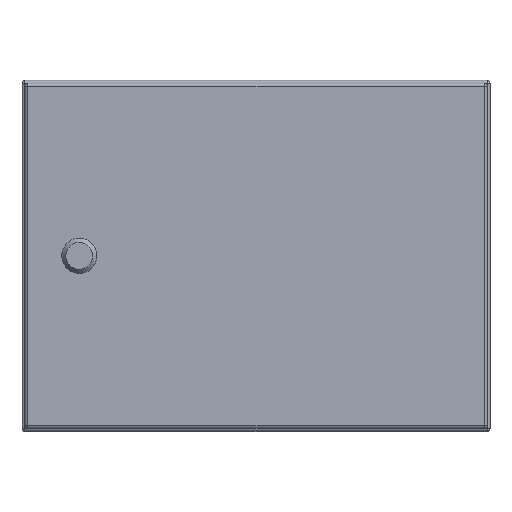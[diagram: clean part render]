
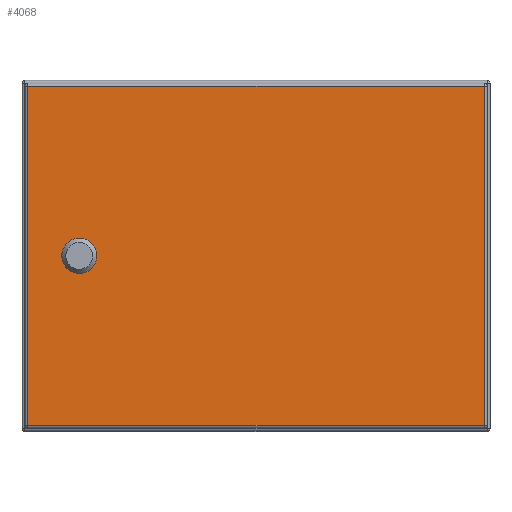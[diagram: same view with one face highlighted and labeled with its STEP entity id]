
A CAD part, top view. The second image highlights one B-rep face of the part: STEP entity #4068.
In plain terms, the highlighted planar face has unit normal (0, 0, 1) as drawn and (0, 0, -1) by its records, which use the part's own axes.
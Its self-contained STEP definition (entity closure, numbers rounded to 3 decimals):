
#334 = ORIENTED_EDGE ( 'NONE', *, *, #7554, .F. ) ;
#363 = LINE ( 'NONE', #473, #6887 ) ;
#412 = DIRECTION ( 'NONE',  ( 0., 0., -1. ) ) ;
#452 = DIRECTION ( 'NONE',  ( -1., 0., 0. ) ) ;
#473 = CARTESIAN_POINT ( 'NONE',  ( -197.5, -145., 0. ) ) ;
#721 = CARTESIAN_POINT ( 'NONE',  ( 156.056, 10.05, 0. ) ) ;
#763 = DIRECTION ( 'NONE',  ( 0., 1., 0. ) ) ;
#764 = EDGE_CURVE ( 'NONE', #1665, #6021, #3766, .T. ) ;
#805 = ORIENTED_EDGE ( 'NONE', *, *, #6939, .F. ) ;
#832 = DIRECTION ( 'NONE',  ( 1., 0., 0. ) ) ;
#878 = EDGE_CURVE ( 'NONE', #4718, #4030, #5985, .T. ) ;
#911 = VERTEX_POINT ( 'NONE', #6864 ) ;
#922 = LINE ( 'NONE', #4445, #3771 ) ;
#941 = CARTESIAN_POINT ( 'NONE',  ( 161.05, 5.056, 0. ) ) ;
#995 = FACE_OUTER_BOUND ( 'NONE', #6973, .T. ) ;
#1033 = EDGE_CURVE ( 'NONE', #6804, #5323, #4732, .T. ) ;
#1053 = ORIENTED_EDGE ( 'NONE', *, *, #1273, .T. ) ;
#1058 = CARTESIAN_POINT ( 'NONE',  ( 140.95, 5.056, 0. ) ) ;
#1273 = EDGE_CURVE ( 'NONE', #5323, #7262, #6478, .T. ) ;
#1340 = EDGE_CURVE ( 'NONE', #3063, #5590, #5993, .T. ) ;
#1494 = CARTESIAN_POINT ( 'NONE',  ( 140.95, -5.056, 0. ) ) ;
#1541 = CARTESIAN_POINT ( 'NONE',  ( 161.05, -5.056, 0. ) ) ;
#1621 = EDGE_CURVE ( 'NONE', #4587, #5381, #4733, .T. ) ;
#1639 = ORIENTED_EDGE ( 'NONE', *, *, #2414, .T. ) ;
#1665 = VERTEX_POINT ( 'NONE', #6316 ) ;
#1761 = CARTESIAN_POINT ( 'NONE',  ( 151., 0., 0. ) ) ;
#1860 = DIRECTION ( 'NONE',  ( 1., 0., 0. ) ) ;
#1916 = LINE ( 'NONE', #4251, #6406 ) ;
#1933 = LINE ( 'NONE', #2546, #2360 ) ;
#1937 = AXIS2_PLACEMENT_3D ( 'NONE', #3010, #5855, #7162 ) ;
#2194 = DIRECTION ( 'NONE',  ( 0., -1., 0. ) ) ;
#2243 = ORIENTED_EDGE ( 'NONE', *, *, #7213, .F. ) ;
#2360 = VECTOR ( 'NONE', #3814, 1000. ) ;
#2414 = EDGE_CURVE ( 'NONE', #7262, #911, #922, .T. ) ;
#2546 = CARTESIAN_POINT ( 'NONE',  ( 156.056, -10.05, 0. ) ) ;
#2625 = EDGE_LOOP ( 'NONE', ( #2984, #334, #6162, #805, #3393, #7419, #2654, #2243 ) ) ;
#2638 = CARTESIAN_POINT ( 'NONE',  ( 195., 145., 0. ) ) ;
#2654 = ORIENTED_EDGE ( 'NONE', *, *, #878, .F. ) ;
#2984 = ORIENTED_EDGE ( 'NONE', *, *, #1621, .F. ) ;
#3010 = CARTESIAN_POINT ( 'NONE',  ( 151., 0., 0. ) ) ;
#3063 = VERTEX_POINT ( 'NONE', #7101 ) ;
#3107 = DIRECTION ( 'NONE',  ( 1., 0., 0. ) ) ;
#3125 = ORIENTED_EDGE ( 'NONE', *, *, #1033, .T. ) ;
#3287 = FACE_BOUND ( 'NONE', #2625, .T. ) ;
#3323 = DIRECTION ( 'NONE',  ( 0., 0., -1. ) ) ;
#3339 = LINE ( 'NONE', #1541, #3686 ) ;
#3393 = ORIENTED_EDGE ( 'NONE', *, *, #764, .F. ) ;
#3511 = CARTESIAN_POINT ( 'NONE',  ( 197.5, 145., 0. ) ) ;
#3666 = AXIS2_PLACEMENT_3D ( 'NONE', #6867, #3862, #7372 ) ;
#3686 = VECTOR ( 'NONE', #6881, 1000. ) ;
#3724 = CARTESIAN_POINT ( 'NONE',  ( -195., -145., 0. ) ) ;
#3751 = CARTESIAN_POINT ( 'NONE',  ( -195., 145., 0. ) ) ;
#3766 = CIRCLE ( 'NONE', #7094, 11.25 ) ;
#3771 = VECTOR ( 'NONE', #2194, 1000. ) ;
#3814 = DIRECTION ( 'NONE',  ( -1., 0., 0. ) ) ;
#3862 = DIRECTION ( 'NONE',  ( 0., 0., -1. ) ) ;
#3931 = CARTESIAN_POINT ( 'NONE',  ( 145.944, -10.05, 0. ) ) ;
#3994 = CARTESIAN_POINT ( 'NONE',  ( 151., 0., 0. ) ) ;
#4017 = CARTESIAN_POINT ( 'NONE',  ( 156.056, -10.05, 0. ) ) ;
#4030 = VERTEX_POINT ( 'NONE', #5013 ) ;
#4068 = ADVANCED_FACE ( 'NONE', ( #3287, #995 ), #5679, .T. ) ;
#4094 = DIRECTION ( 'NONE',  ( 0., 0., -1. ) ) ;
#4168 = DIRECTION ( 'NONE',  ( 0., 1., 0. ) ) ;
#4251 = CARTESIAN_POINT ( 'NONE',  ( 140.95, -5.056, 0. ) ) ;
#4445 = CARTESIAN_POINT ( 'NONE',  ( 195., -147.5, 0. ) ) ;
#4587 = VERTEX_POINT ( 'NONE', #3931 ) ;
#4718 = VERTEX_POINT ( 'NONE', #1058 ) ;
#4732 = LINE ( 'NONE', #7100, #7463 ) ;
#4733 = CIRCLE ( 'NONE', #6589, 11.25 ) ;
#4740 = AXIS2_PLACEMENT_3D ( 'NONE', #1761, #4094, #6448 ) ;
#5013 = CARTESIAN_POINT ( 'NONE',  ( 145.944, 10.05, 0. ) ) ;
#5306 = EDGE_CURVE ( 'NONE', #4030, #1665, #6679, .T. ) ;
#5323 = VERTEX_POINT ( 'NONE', #3751 ) ;
#5381 = VERTEX_POINT ( 'NONE', #1494 ) ;
#5504 = EDGE_CURVE ( 'NONE', #911, #6804, #363, .T. ) ;
#5531 = VECTOR ( 'NONE', #3107, 1000. ) ;
#5552 = ORIENTED_EDGE ( 'NONE', *, *, #5504, .T. ) ;
#5590 = VERTEX_POINT ( 'NONE', #4017 ) ;
#5679 = PLANE ( 'NONE',  #3666 ) ;
#5855 = DIRECTION ( 'NONE',  ( 0., 0., -1. ) ) ;
#5985 = CIRCLE ( 'NONE', #4740, 11.25 ) ;
#5993 = CIRCLE ( 'NONE', #1937, 11.25 ) ;
#6021 = VERTEX_POINT ( 'NONE', #941 ) ;
#6095 = CARTESIAN_POINT ( 'NONE',  ( 151., 0., 0. ) ) ;
#6162 = ORIENTED_EDGE ( 'NONE', *, *, #1340, .F. ) ;
#6316 = CARTESIAN_POINT ( 'NONE',  ( 156.056, 10.05, 0. ) ) ;
#6406 = VECTOR ( 'NONE', #763, 1000. ) ;
#6448 = DIRECTION ( 'NONE',  ( 1., 0., 0. ) ) ;
#6478 = LINE ( 'NONE', #3511, #7211 ) ;
#6589 = AXIS2_PLACEMENT_3D ( 'NONE', #3994, #412, #452 ) ;
#6679 = LINE ( 'NONE', #721, #5531 ) ;
#6804 = VERTEX_POINT ( 'NONE', #3724 ) ;
#6864 = CARTESIAN_POINT ( 'NONE',  ( 195., -145., 0. ) ) ;
#6867 = CARTESIAN_POINT ( 'NONE',  ( 197.5, 147.5, 0. ) ) ;
#6881 = DIRECTION ( 'NONE',  ( 0., -1., 0. ) ) ;
#6887 = VECTOR ( 'NONE', #7529, 1000. ) ;
#6939 = EDGE_CURVE ( 'NONE', #6021, #3063, #3339, .T. ) ;
#6973 = EDGE_LOOP ( 'NONE', ( #3125, #1053, #1639, #5552 ) ) ;
#7094 = AXIS2_PLACEMENT_3D ( 'NONE', #6095, #3323, #832 ) ;
#7100 = CARTESIAN_POINT ( 'NONE',  ( -195., 147.5, 0. ) ) ;
#7101 = CARTESIAN_POINT ( 'NONE',  ( 161.05, -5.056, 0. ) ) ;
#7162 = DIRECTION ( 'NONE',  ( -1., 0., 0. ) ) ;
#7211 = VECTOR ( 'NONE', #1860, 1000. ) ;
#7213 = EDGE_CURVE ( 'NONE', #5381, #4718, #1916, .T. ) ;
#7262 = VERTEX_POINT ( 'NONE', #2638 ) ;
#7372 = DIRECTION ( 'NONE',  ( -1., 0., 0. ) ) ;
#7419 = ORIENTED_EDGE ( 'NONE', *, *, #5306, .F. ) ;
#7463 = VECTOR ( 'NONE', #4168, 1000. ) ;
#7529 = DIRECTION ( 'NONE',  ( -1., 0., 0. ) ) ;
#7554 = EDGE_CURVE ( 'NONE', #5590, #4587, #1933, .T. ) ;
